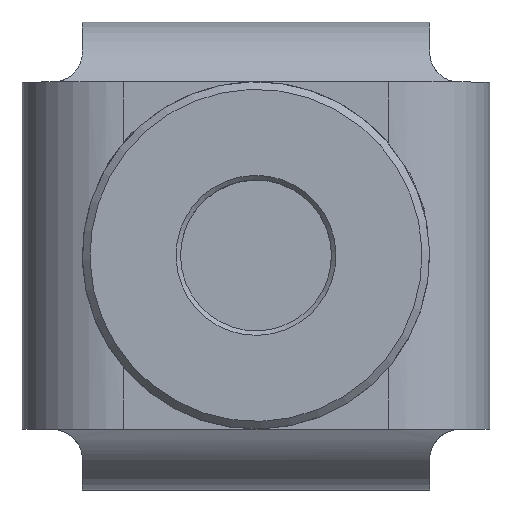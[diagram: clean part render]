
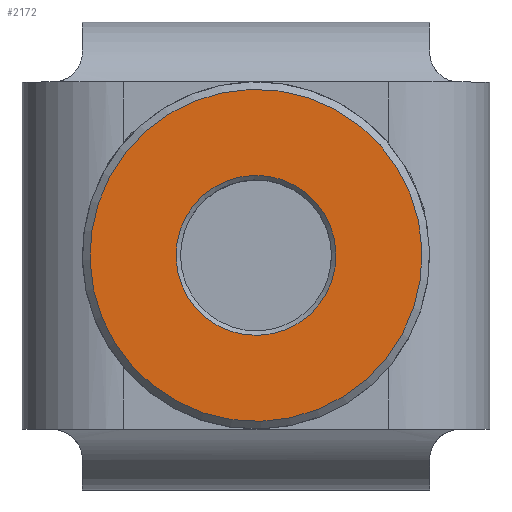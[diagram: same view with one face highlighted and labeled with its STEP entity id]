
A CAD part, top view. The second image highlights one B-rep face of the part: STEP entity #2172.
In plain terms, the highlighted planar face has unit normal (0, 0, 1).
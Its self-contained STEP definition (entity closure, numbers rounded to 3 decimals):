
#434=PLANE('',#2405);
#491=FACE_BOUND('',#800,.T.);
#612=FACE_OUTER_BOUND('',#799,.T.);
#799=EDGE_LOOP('',(#1793));
#800=EDGE_LOOP('',(#1794));
#940=CIRCLE('',#2403,11.);
#942=CIRCLE('',#2406,5.3);
#1107=VERTEX_POINT('',#3859);
#1109=VERTEX_POINT('',#3864);
#1358=EDGE_CURVE('',#1107,#1107,#940,.T.);
#1360=EDGE_CURVE('',#1109,#1109,#942,.T.);
#1793=ORIENTED_EDGE('',*,*,#1358,.F.);
#1794=ORIENTED_EDGE('',*,*,#1360,.F.);
#2172=ADVANCED_FACE('',(#612,#491),#434,.F.);
#2403=AXIS2_PLACEMENT_3D('',#3860,#2938,#2939);
#2405=AXIS2_PLACEMENT_3D('',#3863,#2942,#2943);
#2406=AXIS2_PLACEMENT_3D('',#3865,#2944,#2945);
#2938=DIRECTION('center_axis',(0.,0.,
-1.));
#2939=DIRECTION('ref_axis',(-0.62,-0.784,0.));
#2942=DIRECTION('center_axis',(0.,0.,
-1.));
#2943=DIRECTION('ref_axis',(-0.62,-0.784,0.));
#2944=DIRECTION('center_axis',(0.,0.,
1.));
#2945=DIRECTION('ref_axis',(-0.62,-0.784,0.));
#3859=CARTESIAN_POINT('',(-31.974,1.091,24.302));
#3860=CARTESIAN_POINT('Origin',(-38.796,-7.539,24.302));
#3863=CARTESIAN_POINT('Origin',(-38.796,-7.539,24.302));
#3864=CARTESIAN_POINT('',(-35.509,-3.381,24.302));
#3865=CARTESIAN_POINT('Origin',(-38.796,-7.539,24.302));
